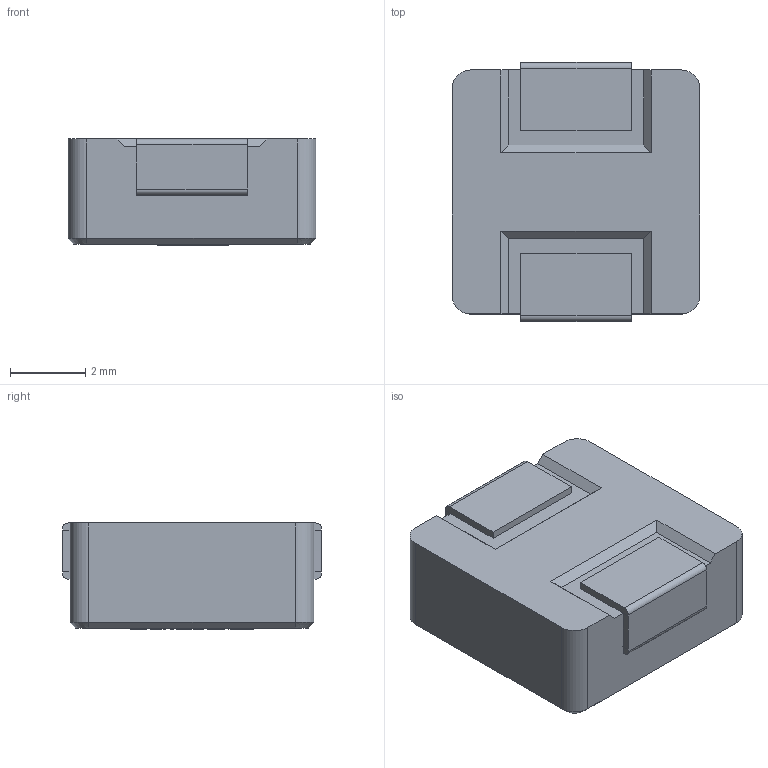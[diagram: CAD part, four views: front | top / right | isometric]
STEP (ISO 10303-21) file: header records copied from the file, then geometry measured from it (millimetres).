
FILE_DESCRIPTION(/* description */ (''),/* implementation_level */ '2;1');
FILE_NAME(/* name */ 'D:/Dropbox/Projekte/tty2oled_esp-wroom-32d/tty2oled_esp-wroom-32d/3D-models/SRP_7028A.step',/* time_stamp */ '2021-08-12T21:19:58+02:00',/* author */ (''),/* organization */ (''),/* preprocessor_version */ 'ST-DEVELOPER v18.1',/* originating_system */ 'Autodesk Translation Framework v10.9.0.1377',/* authorisation */ '');
FILE_SCHEMA (('AUTOMOTIVE_DESIGN { 1 0 10303 214 3 1 1 }'));
Length unit declared in the file: millimetre
Products named in the file (1): (Nicht gespeichert)
Bounding box: 6.6 x 6.9 x 2.83 mm (x, y, z)
Volume: 129.9 mm3; surface area: 300.5 mm2
Topology: 26 solids, 26 shells, 249 faces, 567 edges, 370 vertices
Faces by surface type: plane 146, bspline 88, cylinder 11, cone 4
Full cylindrical faces by diameter (mm): 0.45 x3
Entity records: 14469 total; most frequent: CARTESIAN_POINT 9295, ORIENTED_EDGE 1134, DIRECTION 864, EDGE_CURVE 567, VERTEX_POINT 370, LINE 332, VECTOR 332, AXIS2_PLACEMENT_3D 266
